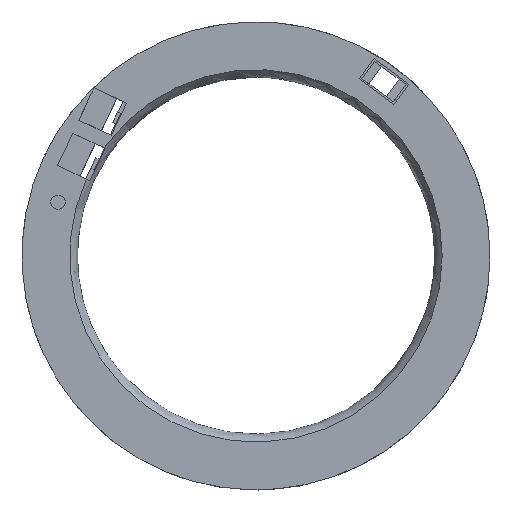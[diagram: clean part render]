
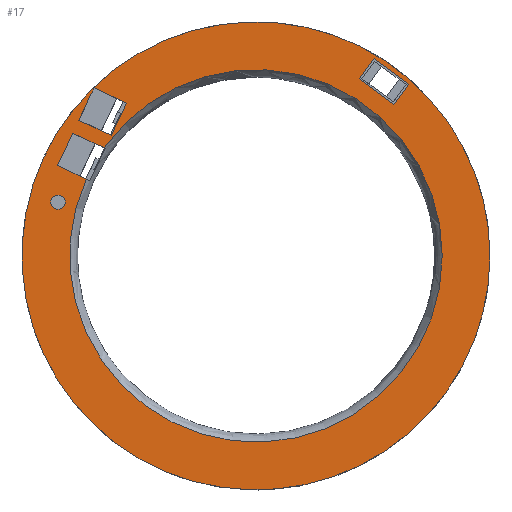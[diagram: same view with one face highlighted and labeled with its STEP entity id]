
A CAD part, top view. The second image highlights one B-rep face of the part: STEP entity #17.
In plain terms, the highlighted planar face has unit normal (0, 0, 1).
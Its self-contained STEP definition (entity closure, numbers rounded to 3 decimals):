
#17 = ADVANCED_FACE('',(#18,#29,#73,#84,#118),#152,.T.);
#18 = FACE_BOUND('',#19,.T.);
#19 = EDGE_LOOP('',(#20));
#20 = ORIENTED_EDGE('',*,*,#21,.T.);
#21 = EDGE_CURVE('',#22,#22,#24,.T.);
#22 = VERTEX_POINT('',#23);
#23 = CARTESIAN_POINT('',(13.09,0.,5.1));
#24 = CIRCLE('',#25,13.09);
#25 = AXIS2_PLACEMENT_3D('',#26,#27,#28);
#26 = CARTESIAN_POINT('',(0.,0.,5.1));
#27 = DIRECTION('',(0.,0.,1.));
#28 = DIRECTION('',(1.,0.,0.));
#29 = FACE_BOUND('',#30,.T.);
#30 = EDGE_LOOP('',(#31,#41,#49,#57,#66));
#31 = ORIENTED_EDGE('',*,*,#32,.F.);
#32 = EDGE_CURVE('',#33,#35,#37,.T.);
#33 = VERTEX_POINT('',#34);
#34 = CARTESIAN_POINT('',(-11.103,5.059,5.1));
#35 = VERTEX_POINT('',#36);
#36 = CARTESIAN_POINT('',(-9.491,4.3,5.1));
#37 = LINE('',#38,#39);
#38 = CARTESIAN_POINT('',(-4.678,2.036,5.1));
#39 = VECTOR('',#40,1.);
#40 = DIRECTION('',(0.905,-0.426,0.));
#41 = ORIENTED_EDGE('',*,*,#42,.F.);
#42 = EDGE_CURVE('',#43,#33,#45,.T.);
#43 = VERTEX_POINT('',#44);
#44 = CARTESIAN_POINT('',(-10.251,6.868,5.1));
#45 = LINE('',#46,#47);
#46 = CARTESIAN_POINT('',(-10.645,6.031,5.1));
#47 = VECTOR('',#48,1.);
#48 = DIRECTION('',(-0.426,-0.905,0.));
#49 = ORIENTED_EDGE('',*,*,#50,.T.);
#50 = EDGE_CURVE('',#43,#51,#53,.T.);
#51 = VERTEX_POINT('',#52);
#52 = CARTESIAN_POINT('',(-8.491,6.04,5.1));
#53 = LINE('',#54,#55);
#54 = CARTESIAN_POINT('',(-3.827,3.845,5.1));
#55 = VECTOR('',#56,1.);
#56 = DIRECTION('',(0.905,-0.426,0.));
#57 = ORIENTED_EDGE('',*,*,#58,.F.);
#58 = EDGE_CURVE('',#59,#51,#61,.T.);
#59 = VERTEX_POINT('',#60);
#60 = CARTESIAN_POINT('',(10.42,0.,5.1));
#61 = CIRCLE('',#62,10.42);
#62 = AXIS2_PLACEMENT_3D('',#63,#64,#65);
#63 = CARTESIAN_POINT('',(0.,0.,5.1));
#64 = DIRECTION('',(0.,0.,1.));
#65 = DIRECTION('',(1.,0.,0.));
#66 = ORIENTED_EDGE('',*,*,#67,.F.);
#67 = EDGE_CURVE('',#35,#59,#68,.T.);
#68 = CIRCLE('',#69,10.42);
#69 = AXIS2_PLACEMENT_3D('',#70,#71,#72);
#70 = CARTESIAN_POINT('',(0.,0.,5.1));
#71 = DIRECTION('',(0.,0.,1.));
#72 = DIRECTION('',(1.,0.,0.));
#73 = FACE_BOUND('',#74,.T.);
#74 = EDGE_LOOP('',(#75));
#75 = ORIENTED_EDGE('',*,*,#76,.T.);
#76 = EDGE_CURVE('',#77,#77,#79,.T.);
#77 = VERTEX_POINT('',#78);
#78 = CARTESIAN_POINT('',(-11.476,3.002,5.1));
#79 = CIRCLE('',#80,0.4);
#80 = AXIS2_PLACEMENT_3D('',#81,#82,#83);
#81 = CARTESIAN_POINT('',(-11.076,3.002,5.1));
#82 = DIRECTION('',(0.,0.,-1.));
#83 = DIRECTION('',(-1.,0.,0.));
#84 = FACE_BOUND('',#85,.T.);
#85 = EDGE_LOOP('',(#86,#96,#104,#112));
#86 = ORIENTED_EDGE('',*,*,#87,.F.);
#87 = EDGE_CURVE('',#88,#90,#92,.T.);
#88 = VERTEX_POINT('',#89);
#89 = CARTESIAN_POINT('',(-9.911,7.592,5.1));
#90 = VERTEX_POINT('',#91);
#91 = CARTESIAN_POINT('',(-8.101,6.741,5.1));
#92 = LINE('',#93,#94);
#93 = CARTESIAN_POINT('',(-3.486,4.569,5.1));
#94 = VECTOR('',#95,1.);
#95 = DIRECTION('',(0.905,-0.426,0.));
#96 = ORIENTED_EDGE('',*,*,#97,.F.);
#97 = EDGE_CURVE('',#98,#88,#100,.T.);
#98 = VERTEX_POINT('',#99);
#99 = CARTESIAN_POINT('',(-9.059,9.402,5.1));
#100 = LINE('',#101,#102);
#101 = CARTESIAN_POINT('',(-10.049,7.298,5.1));
#102 = VECTOR('',#103,1.);
#103 = DIRECTION('',(-0.426,-0.905,0.));
#104 = ORIENTED_EDGE('',*,*,#105,.T.);
#105 = EDGE_CURVE('',#98,#106,#108,.T.);
#106 = VERTEX_POINT('',#107);
#107 = CARTESIAN_POINT('',(-7.249,8.55,5.1));
#108 = LINE('',#109,#110);
#109 = CARTESIAN_POINT('',(-2.635,6.379,5.1));
#110 = VECTOR('',#111,1.);
#111 = DIRECTION('',(0.905,-0.426,0.));
#112 = ORIENTED_EDGE('',*,*,#113,.T.);
#113 = EDGE_CURVE('',#106,#90,#114,.T.);
#114 = LINE('',#115,#116);
#115 = CARTESIAN_POINT('',(-8.239,6.447,5.1));
#116 = VECTOR('',#117,1.);
#117 = DIRECTION('',(-0.426,-0.905,0.));
#118 = FACE_BOUND('',#119,.T.);
#119 = EDGE_LOOP('',(#120,#130,#138,#146));
#120 = ORIENTED_EDGE('',*,*,#121,.F.);
#121 = EDGE_CURVE('',#122,#124,#126,.T.);
#122 = VERTEX_POINT('',#123);
#123 = CARTESIAN_POINT('',(7.716,8.477,5.1));
#124 = VERTEX_POINT('',#125);
#125 = CARTESIAN_POINT('',(8.545,9.605,5.1));
#126 = LINE('',#127,#128);
#127 = CARTESIAN_POINT('',(7.716,8.477,5.1));
#128 = VECTOR('',#129,1.);
#129 = DIRECTION('',(0.592,0.806,0.));
#130 = ORIENTED_EDGE('',*,*,#131,.T.);
#131 = EDGE_CURVE('',#122,#132,#134,.T.);
#132 = VERTEX_POINT('',#133);
#133 = CARTESIAN_POINT('',(5.782,9.898,5.1));
#134 = LINE('',#135,#136);
#135 = CARTESIAN_POINT('',(7.716,8.477,5.1));
#136 = VECTOR('',#137,1.);
#137 = DIRECTION('',(-0.806,0.592,0.));
#138 = ORIENTED_EDGE('',*,*,#139,.T.);
#139 = EDGE_CURVE('',#132,#140,#142,.T.);
#140 = VERTEX_POINT('',#141);
#141 = CARTESIAN_POINT('',(6.611,11.026,5.1));
#142 = LINE('',#143,#144);
#143 = CARTESIAN_POINT('',(5.782,9.898,5.1));
#144 = VECTOR('',#145,1.);
#145 = DIRECTION('',(0.592,0.806,0.));
#146 = ORIENTED_EDGE('',*,*,#147,.F.);
#147 = EDGE_CURVE('',#124,#140,#148,.T.);
#148 = LINE('',#149,#150);
#149 = CARTESIAN_POINT('',(8.545,9.605,5.1));
#150 = VECTOR('',#151,1.);
#151 = DIRECTION('',(-0.806,0.592,0.));
#152 = PLANE('',#153);
#153 = AXIS2_PLACEMENT_3D('',#154,#155,#156);
#154 = CARTESIAN_POINT('',(0.,0.,5.1));
#155 = DIRECTION('',(0.,0.,1.));
#156 = DIRECTION('',(1.,0.,0.));
